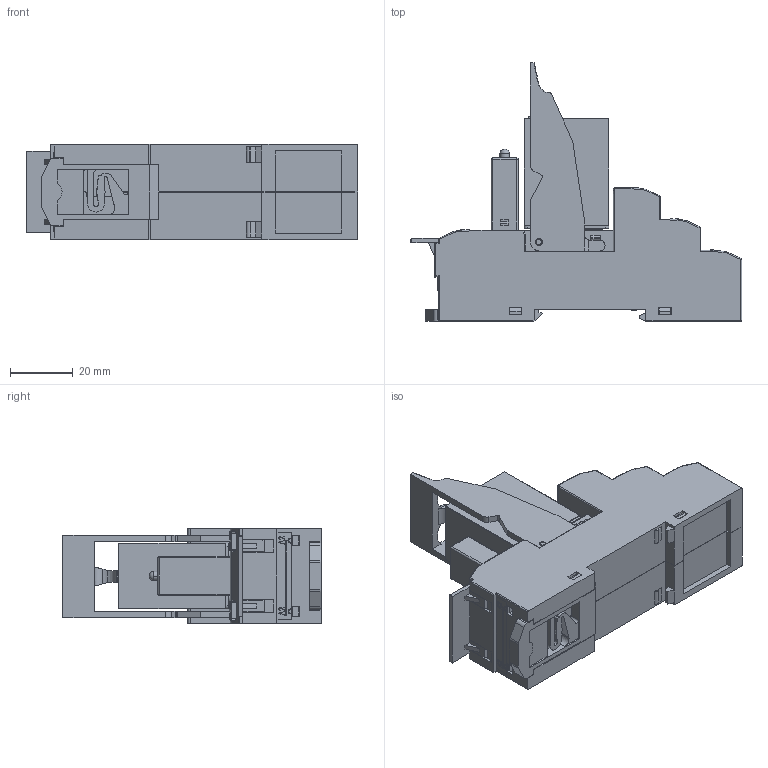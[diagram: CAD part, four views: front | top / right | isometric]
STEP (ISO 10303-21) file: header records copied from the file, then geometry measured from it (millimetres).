
FILE_DESCRIPTION (( 'STEP AP214' ), '1' );
FILE_NAME ('19. IR-4CO_IR-B4-PT_IR-RB-2_IR-MP-2_IR-FM-LD.STEP', '2023-06-08T06:04:07', ( '' ), ( '' ), 'SwSTEP 2.0', 'SolidWorks 2022', '' );
FILE_SCHEMA (( 'AUTOMOTIVE_DESIGN' ));
Length unit declared in the file: millimetre
Products named in the file (6): IR-B4-PT; 19. IR-4CO_IR-B4-PT_IR-RB-2_IR-MP-2_IR-FM-LD; IR-FM-LD; IR-RB-2 (DKC); IR-4CO; IR-MP-2 (DKC)
Assembly tree (5 placements, depth 2):
  19. IR-4CO_IR-B4-PT_IR-RB-2_IR-MP-2_IR-FM-LD
    IR-B4-PT
    IR-4CO
    IR-MP-2 (DKC)
    IR-RB-2 (DKC)
    IR-FM-LD
Bounding box: 105.7 x 82.3 x 30.6 mm (x, y, z)
Volume: 86539.7 mm3; surface area: 67949.4 mm2
Topology: 7 solids, 15 shells, 6270 faces, 18577 edges, 12187 vertices
Faces by surface type: plane 4567, cylinder 1319, bspline 298, cone 81, sphere 5
Entity records: 219591 total; most frequent: CARTESIAN_POINT 56009, ORIENTED_EDGE 37076, DIRECTION 30323, EDGE_CURVE 18538, VECTOR 14357, LINE 14357, VERTEX_POINT 12185, AXIS2_PLACEMENT_3D 7983
